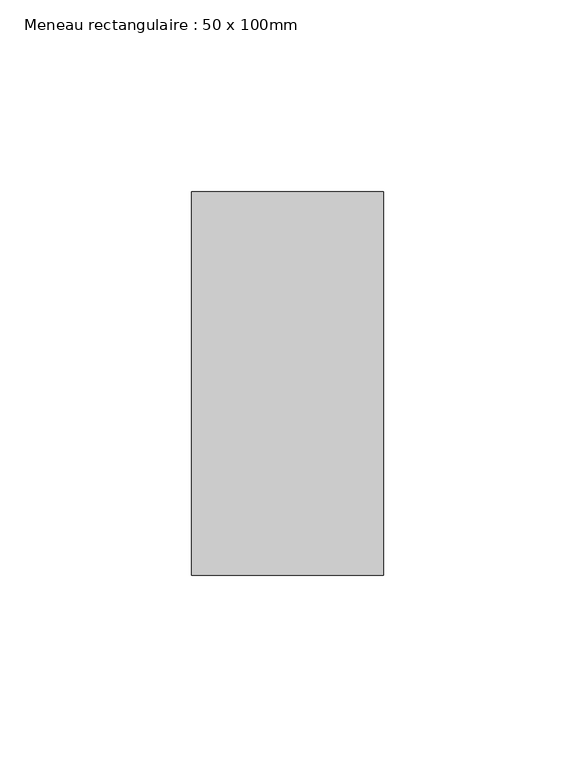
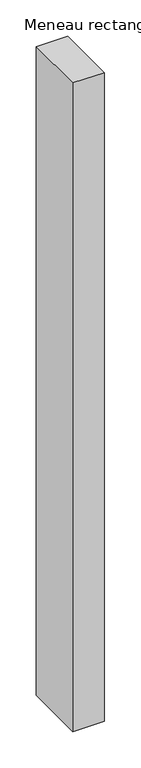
"""IFC4 building model written with IfcOpenShell, lengths in millimetres: member geometry, Meneau rectangulaire : 50 x 100mm."""

from ifc_helpers import new_model, si_unit, frame, origin, place, context, project, spatial, polyline, outline, extrude, source, transform, mapped, element, save


def meneau_rectangulaire_50_x_100mm_62168698(model_context):
    return source(origin(), model_context, "Body", "SweptSolid", [
        extrude(outline(polyline([(25.0, 50.0), (25.0, -50.0), (-25.0, -50.0), (-25.0, 50.0), (25.0, 50.0)])), frame((0.0, 0.0, -1088.3698288), z_axis=(0.0, 0.0, 1.0), x_axis=(1.0, 0.0, 0.0)), (0.0, 0.0, 1.0), 1088.3698288),
    ])


if __name__ == "__main__":
    model = new_model("IFC4")
    model_context = context("Model", 3, world=origin())
    ifc_project = project(units=[si_unit("LENGTHUNIT", "METRE", prefix="MILLI")], contexts=[model_context])
    site = spatial("IfcSite", under=ifc_project)
    building = spatial("IfcBuilding", under=site)
    placement = place(None, origin())
    meneau_rectangulaire_50_x_100mm_shape = meneau_rectangulaire_50_x_100mm_62168698(model_context)
    element("IfcMember", 1, ObjectType="Meneau rectangulaire : 50 x 100mm", at=placement, inside=building, context=model_context, shape_type="MappedRepresentation", body=[
        mapped(meneau_rectangulaire_50_x_100mm_shape, transform((0.0, 0.0, 0.0), x_axis=(1.0, 0.0, 0.0), y_axis=(0.0, 1.0, 0.0), z_axis=(0.0, 0.0, 1.0))),
    ])
    save(model, "model.ifc")
